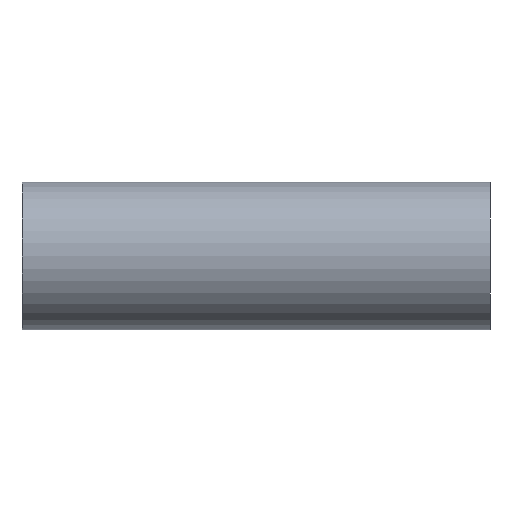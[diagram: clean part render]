
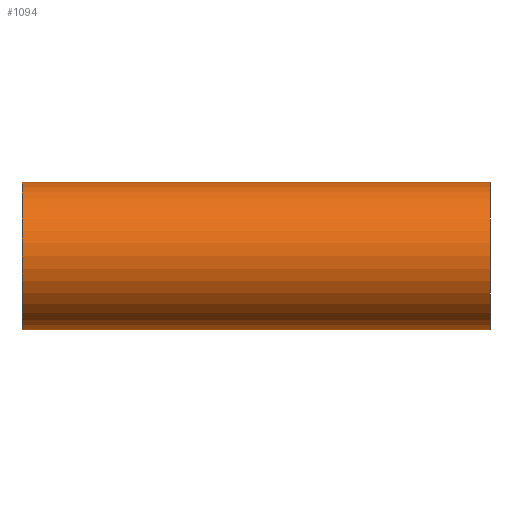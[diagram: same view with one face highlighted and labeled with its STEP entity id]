
A CAD part, front view. The second image highlights one B-rep face of the part: STEP entity #1094.
In plain terms, the highlighted cylindrical face has radius 19.05 mm (diameter 38.1 mm), a partial arc.
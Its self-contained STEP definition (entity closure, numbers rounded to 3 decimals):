
#61 = DIRECTION ( 'NONE',  ( 0., 0., -1. ) ) ;
#69 = CIRCLE ( 'NONE', #1142, 19.05 ) ;
#106 = DIRECTION ( 'NONE',  ( 1., 0., 0. ) ) ;
#141 = VECTOR ( 'NONE', #202, 1000. ) ;
#177 = CARTESIAN_POINT ( 'NONE',  ( -60.3, 0., 0. ) ) ;
#202 = DIRECTION ( 'NONE',  ( 1., 0., 0. ) ) ;
#216 = VERTEX_POINT ( 'NONE', #376 ) ;
#219 = CARTESIAN_POINT ( 'NONE',  ( -60.3, 0., 19.05 ) ) ;
#311 = VERTEX_POINT ( 'NONE', #554 ) ;
#339 = CARTESIAN_POINT ( 'NONE',  ( -60.3, 0., -19.05 ) ) ;
#354 = LINE ( 'NONE', #219, #141 ) ;
#376 = CARTESIAN_POINT ( 'NONE',  ( -60.3, 0., 19.05 ) ) ;
#408 = VECTOR ( 'NONE', #737, 1000. ) ;
#418 = ORIENTED_EDGE ( 'NONE', *, *, #502, .F. ) ;
#439 = CARTESIAN_POINT ( 'NONE',  ( 60.3, 0., 19.05 ) ) ;
#473 = AXIS2_PLACEMENT_3D ( 'NONE', #177, #106, #61 ) ;
#502 = EDGE_CURVE ( 'NONE', #216, #514, #354, .T. ) ;
#510 = DIRECTION ( 'NONE',  ( 0., 0., -1. ) ) ;
#514 = VERTEX_POINT ( 'NONE', #439 ) ;
#530 = ORIENTED_EDGE ( 'NONE', *, *, #1258, .T. ) ;
#552 = DIRECTION ( 'NONE',  ( -1., 0., 0. ) ) ;
#554 = CARTESIAN_POINT ( 'NONE',  ( 60.3, 0., -19.05 ) ) ;
#561 = CARTESIAN_POINT ( 'NONE',  ( 60.3, 0., 0. ) ) ;
#618 = VERTEX_POINT ( 'NONE', #339 ) ;
#635 = ORIENTED_EDGE ( 'NONE', *, *, #802, .T. ) ;
#644 = CYLINDRICAL_SURFACE ( 'NONE', #473, 19.05 ) ;
#705 = AXIS2_PLACEMENT_3D ( 'NONE', #561, #552, #510 ) ;
#732 = CIRCLE ( 'NONE', #705, 19.05 ) ;
#737 = DIRECTION ( 'NONE',  ( 1., 0., 0. ) ) ;
#757 = CARTESIAN_POINT ( 'NONE',  ( -60.3, 0., -19.05 ) ) ;
#802 = EDGE_CURVE ( 'NONE', #311, #514, #732, .T. ) ;
#915 = EDGE_LOOP ( 'NONE', ( #418, #530, #984, #635 ) ) ;
#971 = FACE_OUTER_BOUND ( 'NONE', #915, .T. ) ;
#984 = ORIENTED_EDGE ( 'NONE', *, *, #1134, .T. ) ;
#1094 = ADVANCED_FACE ( 'NONE', ( #971 ), #644, .T. ) ;
#1129 = DIRECTION ( 'NONE',  ( 0., 0., -1. ) ) ;
#1134 = EDGE_CURVE ( 'NONE', #618, #311, #1209, .T. ) ;
#1142 = AXIS2_PLACEMENT_3D ( 'NONE', #1153, #1149, #1129 ) ;
#1149 = DIRECTION ( 'NONE',  ( 1., 0., 0. ) ) ;
#1153 = CARTESIAN_POINT ( 'NONE',  ( -60.3, 0., 0. ) ) ;
#1209 = LINE ( 'NONE', #757, #408 ) ;
#1258 = EDGE_CURVE ( 'NONE', #216, #618, #69, .T. ) ;
